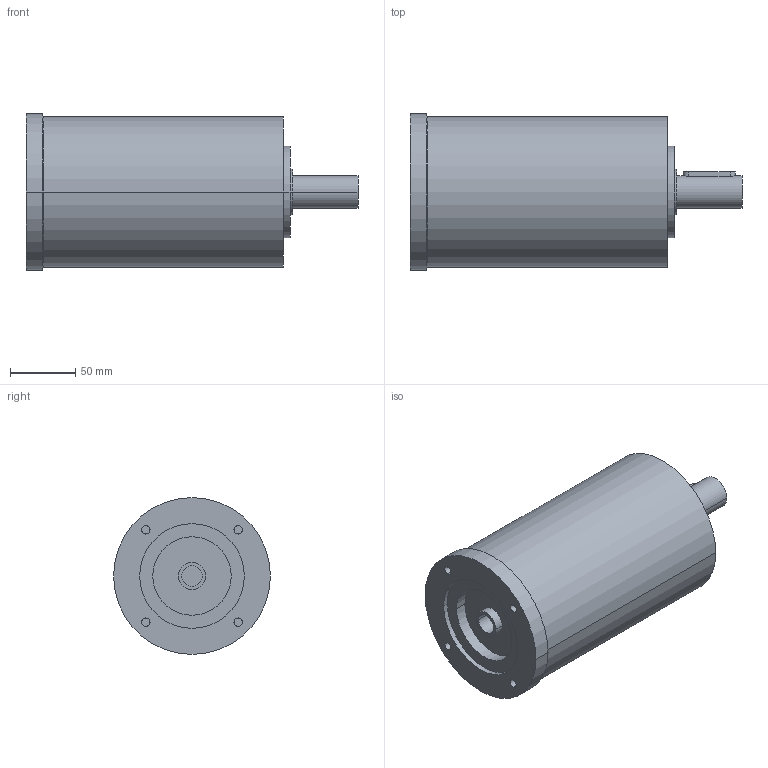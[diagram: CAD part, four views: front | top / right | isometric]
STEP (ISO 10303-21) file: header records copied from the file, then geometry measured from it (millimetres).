
FILE_DESCRIPTION(('CoCreate Modeling STEP Export'),'2;1');
FILE_NAME('GPR125_ig-48-64-80-100-140-196-245-343_25_B14_15.87_P05.stp','2014-08-26T14:21:03',(''),(''),'CoCreate Modeling STEP processor for AP214 (Solid Model)','CoCreate Modeling 16.00C 25-Feb-2009 (C) Parametric Technology GmbH','');
FILE_SCHEMA(('AUTOMOTIVE_DESIGN { 1 0 10303 214 1 1 1 1 }'));
Length unit declared in the file: millimetre
Products named in the file (2): GPR125_ig-48-64-80-100-140-196-245-343_25_B14_15.87_P05
Assembly tree (1 placements, depth 2):
  GPR125_ig-48-64-80-100-140-196-245-343_25_B14_15.87_P05
    GPR125_ig-48-64-80-100-140-196-245-343_25_B14_15.87_P05
Bounding box: 254 x 120 x 120 mm (x, y, z)
Volume: 2046162.9 mm3; surface area: 109177.7 mm2
Topology: 1 solids, 1 shells, 75 faces, 188 edges, 134 vertices
Faces by surface type: cylinder 46, plane 25, cone 4
Entity records: 1915 total; most frequent: ORIENTED_EDGE 372, CARTESIAN_POINT 355, DIRECTION 250, EDGE_CURVE 186, VERTEX_POINT 134, AXIS2_PLACEMENT_3D 97, EDGE_LOOP 96, FACE_OUTER_BOUND 75
